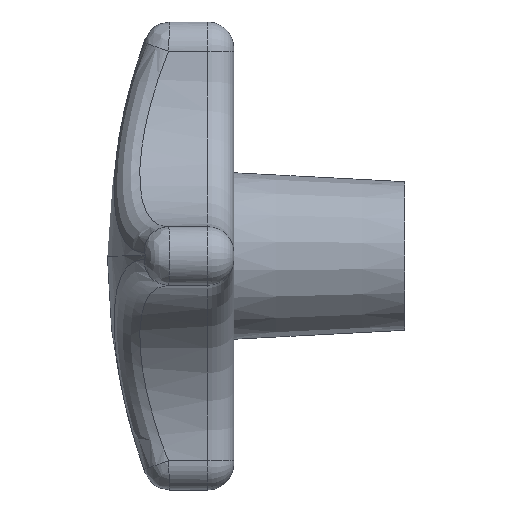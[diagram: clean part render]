
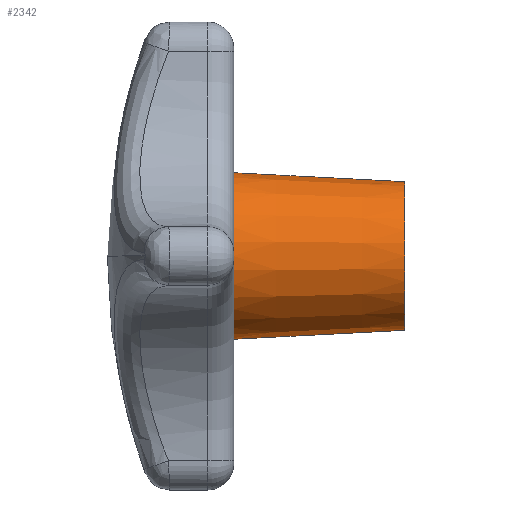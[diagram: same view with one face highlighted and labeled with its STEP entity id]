
A CAD part, left-side view. The second image highlights one B-rep face of the part: STEP entity #2342.
In plain terms, the highlighted conical face has half-angle 3 degrees and reference radius 10 mm.
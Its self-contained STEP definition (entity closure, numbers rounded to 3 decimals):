
#1883 = VERTEX_POINT ( 'NONE', #5271 ) ;
#1894 = VERTEX_POINT ( 'NONE', #5273 ) ;
#1895 = VERTEX_POINT ( 'NONE', #5245 ) ;
#1914 = EDGE_CURVE ( 'NONE', #1895, #1883, #2503, .T. ) ;
#1945 = VERTEX_POINT ( 'NONE', #3236 ) ;
#1948 = EDGE_CURVE ( 'NONE', #1894, #1945, #3305, .T. ) ;
#2332 = EDGE_CURVE ( 'NONE', #1945, #1883, #3475, .T. ) ;
#2342 = ADVANCED_FACE ( 'NONE', ( #3542 ), #3541, .T. ) ;
#2343 = EDGE_LOOP ( 'NONE', ( #2344, #2345, #2347, #6068 ) ) ;
#2344 = ORIENTED_EDGE ( 'NONE', *, *, #1948, .F. ) ;
#2345 = ORIENTED_EDGE ( 'NONE', *, *, #2346, .T. ) ;
#2346 = EDGE_CURVE ( 'NONE', #1894, #1895, #3534, .T. ) ;
#2347 = ORIENTED_EDGE ( 'NONE', *, *, #1914, .T. ) ;
#2500 = DIRECTION ( 'NONE',  ( 0., 0.999, 0.052 ) ) ;
#2501 = VECTOR ( 'NONE', #2500, 1000. ) ;
#2502 = CARTESIAN_POINT ( 'NONE',  ( 0., -23., 10. ) ) ;
#2503 = LINE ( 'NONE', #2502, #2501 ) ;
#3236 = CARTESIAN_POINT ( 'NONE',  ( 0., 0., -11.205 ) ) ;
#3297 = DIRECTION ( 'NONE',  ( 0., 0.999, -0.052 ) ) ;
#3298 = VECTOR ( 'NONE', #3297, 1000. ) ;
#3299 = CARTESIAN_POINT ( 'NONE',  ( 0., -23., -10. ) ) ;
#3305 = LINE ( 'NONE', #3299, #3298 ) ;
#3471 = DIRECTION ( 'NONE',  ( 0., 0., 1. ) ) ;
#3472 = DIRECTION ( 'NONE',  ( 0., 1., 0. ) ) ;
#3473 = CARTESIAN_POINT ( 'NONE',  ( 0., 0., 0. ) ) ;
#3474 = AXIS2_PLACEMENT_3D ( 'NONE', #3473, #3472, #3471 ) ;
#3475 = CIRCLE ( 'NONE', #3474, 11.205 ) ;
#3534 = CIRCLE ( 'NONE', #3539, 10. ) ;
#3536 = DIRECTION ( 'NONE',  ( 0., 0., 1. ) ) ;
#3537 = DIRECTION ( 'NONE',  ( 0., 1., 0. ) ) ;
#3538 = AXIS2_PLACEMENT_3D ( 'NONE', #3540, #3537, #3536 ) ;
#3539 = AXIS2_PLACEMENT_3D ( 'NONE', #3601, #3600, #3599 ) ;
#3540 = CARTESIAN_POINT ( 'NONE',  ( 0., -23., 0. ) ) ;
#3541 = CONICAL_SURFACE ( 'NONE', #3538, 10., 0.052 ) ;
#3542 = FACE_OUTER_BOUND ( 'NONE', #2343, .T. ) ;
#3599 = DIRECTION ( 'NONE',  ( 0., 0., 1. ) ) ;
#3600 = DIRECTION ( 'NONE',  ( 0., 1., 0. ) ) ;
#3601 = CARTESIAN_POINT ( 'NONE',  ( 0., -23., 0. ) ) ;
#5245 = CARTESIAN_POINT ( 'NONE',  ( 0., -23., 10. ) ) ;
#5271 = CARTESIAN_POINT ( 'NONE',  ( 0., 0., 11.205 ) ) ;
#5273 = CARTESIAN_POINT ( 'NONE',  ( 0., -23., -10. ) ) ;
#6068 = ORIENTED_EDGE ( 'NONE', *, *, #2332, .F. ) ;
